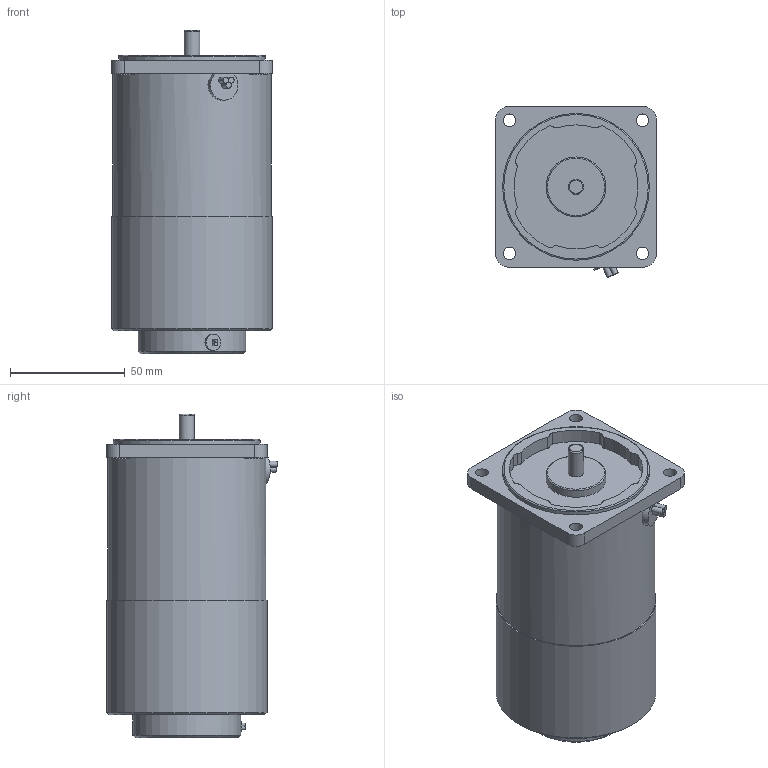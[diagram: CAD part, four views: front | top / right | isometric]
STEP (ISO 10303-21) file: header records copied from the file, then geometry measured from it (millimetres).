
FILE_DESCRIPTION((''),'2;1');
FILE_NAME('E:\2공장-도면\3D\표준형 3D(민규)\step file\D\K7RG15Nㅁ-D.stp','2014-11-17T11:03:07',('AHN'),(''),'Autodesk Inventor 2012','Autodesk Inventor 2012','');
FILE_SCHEMA(('CONFIG_CONTROL_DESIGN'));
Length unit declared in the file: millimetre
Products named in the file (1): K7RG15Nㅁ-D
Bounding box: 70 x 74.51 x 141 mm (x, y, z)
Volume: 464710.5 mm3; surface area: 39858.6 mm2
Topology: 1 solids, 1 shells, 83 faces, 189 edges, 117 vertices
Faces by surface type: cylinder 52, plane 26, torus 3, cone 2
Full cylindrical faces by diameter (mm): 1.4 x2, 5.5 x4, 6.7 x1, 7 x1, 8 x4, 26 x1, 47 x1, 64 x1, 69 x1, 70 x1
Entity records: 2318 total; most frequent: DIRECTION 437, CARTESIAN_POINT 423, ORIENTED_EDGE 328, AXIS2_PLACEMENT_3D 191, EDGE_CURVE 164, EDGE_LOOP 124, VERTEX_POINT 112, CIRCLE 107
